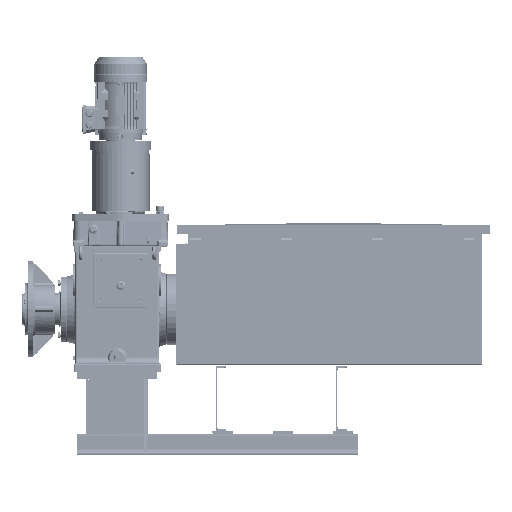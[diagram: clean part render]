
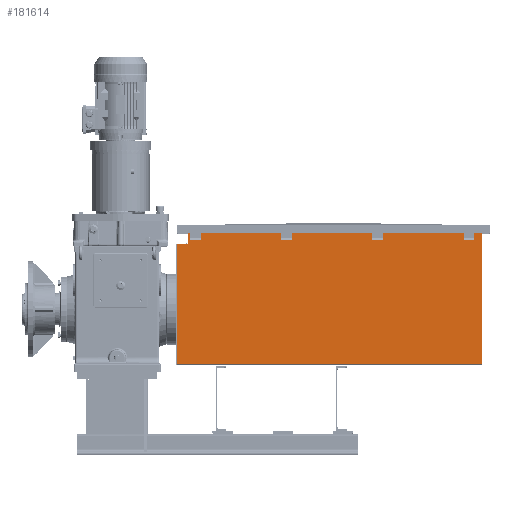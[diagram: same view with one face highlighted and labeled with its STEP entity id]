
A CAD part, top view. The second image highlights one B-rep face of the part: STEP entity #181614.
In plain terms, the highlighted planar face has unit normal (0, 0, 1).
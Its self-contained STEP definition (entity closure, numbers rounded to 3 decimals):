
#5999=PLANE('',#192441);
#14478=LINE('',#258411,#30698);
#14500=LINE('',#258466,#30720);
#14501=LINE('',#258472,#30721);
#14520=LINE('',#258510,#30740);
#14521=LINE('',#258515,#30741);
#14580=LINE('',#258688,#30800);
#14600=LINE('',#258740,#30820);
#14601=LINE('',#258743,#30821);
#14602=LINE('',#258746,#30822);
#14652=LINE('',#258884,#30872);
#14672=LINE('',#258936,#30892);
#14673=LINE('',#258939,#30893);
#14674=LINE('',#258942,#30894);
#14690=LINE('',#258984,#30910);
#14709=LINE('',#259034,#30929);
#14710=LINE('',#259037,#30930);
#14711=LINE('',#259040,#30931);
#15175=LINE('',#260631,#31395);
#15204=LINE('',#260698,#31424);
#15205=LINE('',#260700,#31425);
#15213=LINE('',#260715,#31433);
#15214=LINE('',#260716,#31434);
#30698=VECTOR('',#208647,32.647);
#30720=VECTOR('',#208705,40.);
#30721=VECTOR('',#208712,32.647);
#30740=VECTOR('',#208735,300.);
#30741=VECTOR('',#208742,9.984);
#30800=VECTOR('',#208905,32.647);
#30820=VECTOR('',#208961,40.);
#30821=VECTOR('',#208966,32.647);
#30822=VECTOR('',#208969,300.);
#30872=VECTOR('',#209105,32.647);
#30892=VECTOR('',#209161,40.);
#30893=VECTOR('',#209166,32.647);
#30894=VECTOR('',#209169,300.);
#30910=VECTOR('',#209207,32.647);
#30929=VECTOR('',#209260,40.);
#30930=VECTOR('',#209265,32.647);
#30931=VECTOR('',#209268,28.016);
#31395=VECTOR('',#210668,448.016);
#31424=VECTOR('',#210735,46.032);
#31425=VECTOR('',#210738,40.);
#31433=VECTOR('',#210754,1138.);
#31434=VECTOR('',#210755,494.048);
#47338=FACE_OUTER_BOUND('',#57552,.T.);
#57552=EDGE_LOOP('',(#121423,#121424,#121425,#121426,#121427,#121428,#121429,
#121430,#121431,#121432,#121433,#121434,#121435,#121436,#121437,#121438,
#121439,#121440,#121441,#121442,#121443,#121444));
#75270=VERTEX_POINT('',#258395);
#75277=VERTEX_POINT('',#258409);
#75292=VERTEX_POINT('',#258464);
#75293=VERTEX_POINT('',#258469);
#75311=VERTEX_POINT('',#258509);
#75312=VERTEX_POINT('',#258513);
#75368=VERTEX_POINT('',#258674);
#75374=VERTEX_POINT('',#258686);
#75388=VERTEX_POINT('',#258738);
#75389=VERTEX_POINT('',#258745);
#75428=VERTEX_POINT('',#258870);
#75434=VERTEX_POINT('',#258882);
#75448=VERTEX_POINT('',#258934);
#75449=VERTEX_POINT('',#258941);
#75458=VERTEX_POINT('',#258970);
#75464=VERTEX_POINT('',#258982);
#75478=VERTEX_POINT('',#259032);
#75479=VERTEX_POINT('',#259039);
#75955=VERTEX_POINT('',#260628);
#75956=VERTEX_POINT('',#260630);
#75975=VERTEX_POINT('',#260696);
#75978=VERTEX_POINT('',#260714);
#92604=EDGE_CURVE('',#75270,#75277,#14478,.T.);
#92632=EDGE_CURVE('',#75277,#75292,#14500,.T.);
#92634=EDGE_CURVE('',#75292,#75293,#14501,.T.);
#92653=EDGE_CURVE('',#75311,#75270,#14520,.T.);
#92656=EDGE_CURVE('',#75293,#75312,#14521,.T.);
#92743=EDGE_CURVE('',#75368,#75374,#14580,.T.);
#92769=EDGE_CURVE('',#75374,#75388,#14600,.T.);
#92770=EDGE_CURVE('',#75388,#75311,#14601,.T.);
#92771=EDGE_CURVE('',#75389,#75368,#14602,.T.);
#92841=EDGE_CURVE('',#75428,#75434,#14652,.T.);
#92867=EDGE_CURVE('',#75434,#75448,#14672,.T.);
#92868=EDGE_CURVE('',#75448,#75389,#14673,.T.);
#92869=EDGE_CURVE('',#75449,#75428,#14674,.T.);
#92891=EDGE_CURVE('',#75458,#75464,#14690,.T.);
#92916=EDGE_CURVE('',#75464,#75478,#14709,.T.);
#92917=EDGE_CURVE('',#75478,#75449,#14710,.T.);
#92918=EDGE_CURVE('',#75479,#75458,#14711,.T.);
#93623=EDGE_CURVE('',#75955,#75956,#15175,.T.);
#93659=EDGE_CURVE('',#75312,#75975,#15204,.T.);
#93660=EDGE_CURVE('',#75975,#75956,#15205,.T.);
#93668=EDGE_CURVE('',#75978,#75955,#15213,.T.);
#93669=EDGE_CURVE('',#75479,#75978,#15214,.T.);
#121423=ORIENTED_EDGE('',*,*,#92634,.T.);
#121424=ORIENTED_EDGE('',*,*,#92656,.T.);
#121425=ORIENTED_EDGE('',*,*,#93659,.T.);
#121426=ORIENTED_EDGE('',*,*,#93660,.T.);
#121427=ORIENTED_EDGE('',*,*,#93623,.F.);
#121428=ORIENTED_EDGE('',*,*,#93668,.F.);
#121429=ORIENTED_EDGE('',*,*,#93669,.F.);
#121430=ORIENTED_EDGE('',*,*,#92918,.T.);
#121431=ORIENTED_EDGE('',*,*,#92891,.T.);
#121432=ORIENTED_EDGE('',*,*,#92916,.T.);
#121433=ORIENTED_EDGE('',*,*,#92917,.T.);
#121434=ORIENTED_EDGE('',*,*,#92869,.T.);
#121435=ORIENTED_EDGE('',*,*,#92841,.T.);
#121436=ORIENTED_EDGE('',*,*,#92867,.T.);
#121437=ORIENTED_EDGE('',*,*,#92868,.T.);
#121438=ORIENTED_EDGE('',*,*,#92771,.T.);
#121439=ORIENTED_EDGE('',*,*,#92743,.T.);
#121440=ORIENTED_EDGE('',*,*,#92769,.T.);
#121441=ORIENTED_EDGE('',*,*,#92770,.T.);
#121442=ORIENTED_EDGE('',*,*,#92653,.T.);
#121443=ORIENTED_EDGE('',*,*,#92604,.T.);
#121444=ORIENTED_EDGE('',*,*,#92632,.T.);
#181614=ADVANCED_FACE('',(#47338),#5999,.T.);
#192441=AXIS2_PLACEMENT_3D('',#260713,#210752,#210753);
#208647=DIRECTION('',(0.,-1.,0.));
#208705=DIRECTION('',(-1.,0.,0.));
#208712=DIRECTION('',(0.,1.,0.));
#208735=DIRECTION('',(-1.,0.,0.));
#208742=DIRECTION('',(-1.,0.,0.));
#208905=DIRECTION('',(0.,-1.,0.));
#208961=DIRECTION('',(-1.,0.,0.));
#208966=DIRECTION('',(0.,1.,0.));
#208969=DIRECTION('',(-1.,0.,0.));
#209105=DIRECTION('',(0.,-1.,0.));
#209161=DIRECTION('',(-1.,0.,0.));
#209166=DIRECTION('',(0.,1.,0.));
#209169=DIRECTION('',(-1.,0.,0.));
#209207=DIRECTION('',(0.,-1.,0.));
#209260=DIRECTION('',(-1.,0.,0.));
#209265=DIRECTION('',(0.,1.,0.));
#209268=DIRECTION('',(-1.,0.,0.));
#210668=DIRECTION('',(0.,1.,0.));
#210735=DIRECTION('',(0.,-1.,0.));
#210738=DIRECTION('',(-1.,0.,0.));
#210752=DIRECTION('center_axis',(0.,0.,
1.));
#210753=DIRECTION('ref_axis',(0.,1.,0.));
#210754=DIRECTION('',(-1.,0.,0.));
#210755=DIRECTION('',(0.,-1.,0.));
#258395=CARTESIAN_POINT('',(352.493,229.38,105.519));
#258409=CARTESIAN_POINT('',(352.493,196.733,105.519));
#258411=CARTESIAN_POINT('',(352.493,95.978,105.519));
#258464=CARTESIAN_POINT('',(312.493,196.733,105.519));
#258466=CARTESIAN_POINT('',(582.001,196.733,105.519));
#258469=CARTESIAN_POINT('',(312.493,229.38,105.519));
#258472=CARTESIAN_POINT('',(312.493,95.978,105.519));
#258509=CARTESIAN_POINT('',(652.493,229.38,105.519));
#258510=CARTESIAN_POINT('',(1116.01,229.38,105.519));
#258513=CARTESIAN_POINT('',(302.51,229.38,105.519));
#258515=CARTESIAN_POINT('',(1116.01,229.38,105.519));
#258674=CARTESIAN_POINT('',(692.493,229.38,105.519));
#258686=CARTESIAN_POINT('',(692.493,196.733,105.519));
#258688=CARTESIAN_POINT('',(692.493,95.978,105.519));
#258738=CARTESIAN_POINT('',(652.493,196.733,105.519));
#258740=CARTESIAN_POINT('',(752.001,196.733,105.519));
#258743=CARTESIAN_POINT('',(652.493,95.978,105.519));
#258745=CARTESIAN_POINT('',(992.493,229.38,105.519));
#258746=CARTESIAN_POINT('',(1116.01,229.38,105.519));
#258870=CARTESIAN_POINT('',(1032.493,229.38,105.519));
#258882=CARTESIAN_POINT('',(1032.493,196.733,105.519));
#258884=CARTESIAN_POINT('',(1032.493,95.978,105.519));
#258934=CARTESIAN_POINT('',(992.493,196.733,105.519));
#258936=CARTESIAN_POINT('',(922.001,196.733,105.519));
#258939=CARTESIAN_POINT('',(992.493,95.978,105.519));
#258941=CARTESIAN_POINT('',(1332.493,229.38,105.519));
#258942=CARTESIAN_POINT('',(1116.01,229.38,105.519));
#258970=CARTESIAN_POINT('',(1372.493,229.38,105.519));
#258982=CARTESIAN_POINT('',(1372.493,196.733,105.519));
#258984=CARTESIAN_POINT('',(1372.493,95.978,105.519));
#259032=CARTESIAN_POINT('',(1332.493,196.733,105.519));
#259034=CARTESIAN_POINT('',(1092.001,196.733,105.519));
#259037=CARTESIAN_POINT('',(1332.493,95.978,105.519));
#259039=CARTESIAN_POINT('',(1400.51,229.38,105.519));
#259040=CARTESIAN_POINT('',(1116.01,229.38,105.519));
#260628=CARTESIAN_POINT('',(262.51,-264.668,105.519));
#260630=CARTESIAN_POINT('',(262.51,183.348,105.519));
#260631=CARTESIAN_POINT('',(262.51,-266.652,105.519));
#260696=CARTESIAN_POINT('',(302.51,183.348,105.519));
#260698=CARTESIAN_POINT('',(302.51,108.348,105.519));
#260700=CARTESIAN_POINT('',(567.01,183.348,105.519));
#260713=CARTESIAN_POINT('Origin',(831.51,-16.652,105.519));
#260714=CARTESIAN_POINT('',(1400.51,-264.668,105.519));
#260715=CARTESIAN_POINT('',(262.51,-264.668,105.519));
#260716=CARTESIAN_POINT('',(1400.51,233.348,105.519));
